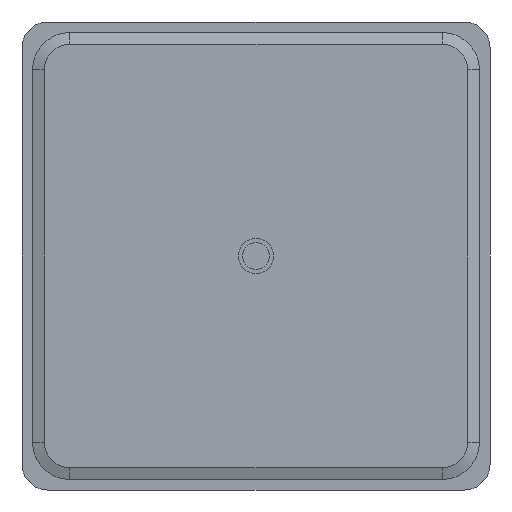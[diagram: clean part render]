
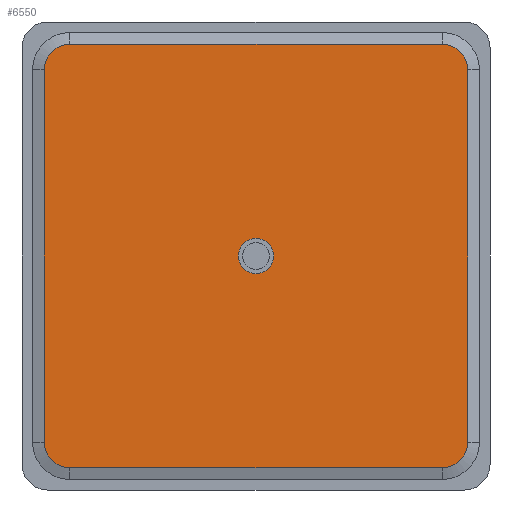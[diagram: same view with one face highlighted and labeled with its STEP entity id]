
A CAD part, front view. The second image highlights one B-rep face of the part: STEP entity #6550.
In plain terms, the highlighted planar face has unit normal (0, -1, 0).
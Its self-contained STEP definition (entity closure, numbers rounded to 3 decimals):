
#1=CARTESIAN_POINT('',(0.,0.,0.));
#2=DIRECTION('',(0.,-1.,0.));
#3=DIRECTION('',(-1.,0.,0.));
#4=AXIS2_PLACEMENT_3D('',#1,#2,#3);
#6=CARTESIAN_POINT('',(0.,0.,0.));
#7=DIRECTION('',(0.,-1.,0.));
#8=DIRECTION('',(1.,0.,0.));
#9=AXIS2_PLACEMENT_3D('',#6,#7,#8);
#11=DIRECTION('',(0.,0.,1.));
#12=VECTOR('',#11,318.);
#13=CARTESIAN_POINT('',(-181.,0.,-159.));
#14=LINE('',#13,#12);
#15=CARTESIAN_POINT('',(-159.,0.,159.));
#16=DIRECTION('',(0.,-1.,0.));
#17=DIRECTION('',(0.,0.,1.));
#18=AXIS2_PLACEMENT_3D('',#15,#16,#17);
#20=DIRECTION('',(1.,0.,0.));
#21=VECTOR('',#20,318.);
#22=CARTESIAN_POINT('',(-159.,0.,181.));
#23=LINE('',#22,#21);
#24=CARTESIAN_POINT('',(159.,0.,159.));
#25=DIRECTION('',(0.,-1.,0.));
#26=DIRECTION('',(1.,0.,0.));
#27=AXIS2_PLACEMENT_3D('',#24,#25,#26);
#29=DIRECTION('',(0.,0.,-1.));
#30=VECTOR('',#29,318.);
#31=CARTESIAN_POINT('',(181.,0.,159.));
#32=LINE('',#31,#30);
#33=CARTESIAN_POINT('',(159.,0.,-159.));
#34=DIRECTION('',(0.,-1.,0.));
#35=DIRECTION('',(0.,0.,-1.));
#36=AXIS2_PLACEMENT_3D('',#33,#34,#35);
#38=DIRECTION('',(-1.,0.,0.));
#39=VECTOR('',#38,318.);
#40=CARTESIAN_POINT('',(159.,0.,-181.));
#41=LINE('',#40,#39);
#42=CARTESIAN_POINT('',(-159.,0.,-159.));
#43=DIRECTION('',(0.,-1.,0.));
#44=DIRECTION('',(-1.,0.,0.));
#45=AXIS2_PLACEMENT_3D('',#42,#43,#44);
#5117=CARTESIAN_POINT('',(-15.,0.,0.));
#5118=CARTESIAN_POINT('',(15.,0.,0.));
#5119=VERTEX_POINT('',#5117);
#5120=VERTEX_POINT('',#5118);
#6489=CARTESIAN_POINT('',(-181.,0.,-159.));
#6490=CARTESIAN_POINT('',(-181.,0.,159.));
#6491=VERTEX_POINT('',#6489);
#6492=VERTEX_POINT('',#6490);
#6493=CARTESIAN_POINT('',(-159.,0.,-181.));
#6494=VERTEX_POINT('',#6493);
#6495=CARTESIAN_POINT('',(159.,0.,-181.));
#6496=VERTEX_POINT('',#6495);
#6497=CARTESIAN_POINT('',(181.,0.,-159.));
#6498=VERTEX_POINT('',#6497);
#6499=CARTESIAN_POINT('',(181.,0.,159.));
#6500=VERTEX_POINT('',#6499);
#6501=CARTESIAN_POINT('',(159.,0.,181.));
#6502=VERTEX_POINT('',#6501);
#6503=CARTESIAN_POINT('',(-159.,0.,181.));
#6504=VERTEX_POINT('',#6503);
#6521=CARTESIAN_POINT('',(0.,0.,0.));
#6522=DIRECTION('',(0.,1.,0.));
#6523=DIRECTION('',(1.,0.,0.));
#6524=AXIS2_PLACEMENT_3D('',#6521,#6522,#6523);
#6525=PLANE('',#6524);
#6527=ORIENTED_EDGE('',*,*,#6526,.T.);
#6529=ORIENTED_EDGE('',*,*,#6528,.F.);
#6531=ORIENTED_EDGE('',*,*,#6530,.T.);
#6533=ORIENTED_EDGE('',*,*,#6532,.F.);
#6535=ORIENTED_EDGE('',*,*,#6534,.T.);
#6537=ORIENTED_EDGE('',*,*,#6536,.F.);
#6539=ORIENTED_EDGE('',*,*,#6538,.T.);
#6541=ORIENTED_EDGE('',*,*,#6540,.F.);
#6542=EDGE_LOOP('',(#6527,#6529,#6531,#6533,#6535,#6537,#6539,#6541));
#6543=FACE_OUTER_BOUND('',#6542,.F.);
#6545=ORIENTED_EDGE('',*,*,#6544,.T.);
#6547=ORIENTED_EDGE('',*,*,#6546,.T.);
#6548=EDGE_LOOP('',(#6545,#6547));
#6549=FACE_BOUND('',#6548,.F.);
#6550=ADVANCED_FACE('',(#6543,#6549),#6525,.F.);
#5=CIRCLE('',#4,15.);
#10=CIRCLE('',#9,15.);
#19=CIRCLE('',#18,22.);
#28=CIRCLE('',#27,22.);
#37=CIRCLE('',#36,22.);
#46=CIRCLE('',#45,22.);
#6526=EDGE_CURVE('',#6491,#6492,#14,.T.);
#6528=EDGE_CURVE('',#6504,#6492,#19,.T.);
#6530=EDGE_CURVE('',#6504,#6502,#23,.T.);
#6532=EDGE_CURVE('',#6500,#6502,#28,.T.);
#6534=EDGE_CURVE('',#6500,#6498,#32,.T.);
#6536=EDGE_CURVE('',#6496,#6498,#37,.T.);
#6538=EDGE_CURVE('',#6496,#6494,#41,.T.);
#6540=EDGE_CURVE('',#6491,#6494,#46,.T.);
#6544=EDGE_CURVE('',#5119,#5120,#5,.T.);
#6546=EDGE_CURVE('',#5120,#5119,#10,.T.);
